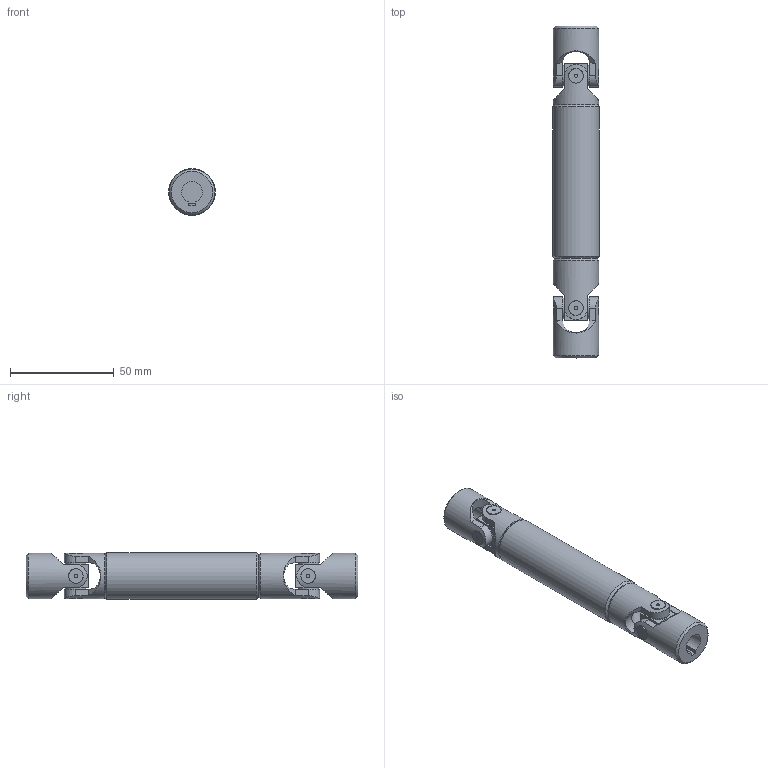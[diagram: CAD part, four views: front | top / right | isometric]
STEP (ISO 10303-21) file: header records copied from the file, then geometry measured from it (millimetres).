
FILE_DESCRIPTION(/* description */ (''),/* implementation_level */ '2;1');
FILE_NAME(/* name */ '\\SRV2016\Societa\Stefano\Disegni 3D\00Catalogo 3D\03Trasmissioni standard GA\!03GA15\!03GA15_SG0A1015.stp',/* time_stamp */ '2022-02-15T10:39:29+01:00',/* author */ ('acquisti'),/* organization */ (''),/* preprocessor_version */ 'ST-DEVELOPER v15.6',/* originating_system */ 'Autodesk Inventor 2015',/* authorisation */ '');
FILE_SCHEMA (('AUTOMOTIVE_DESIGN { 1 0 10303 214 3 1 1 }'));
Length unit declared in the file: millimetre
Products named in the file (5): !03GA15 LCI; !03GA15 LAI; 03G SFE; 03G MOC; !03GA15_SG0A1015
Assembly tree (6 placements, depth 2):
  !03GA15_SG0A1015
    !03GA15 LCI
    !03GA15 LAI
    03G SFE  x2
    03G MOC  x2
Bounding box: 22.5 x 160 x 22.5 mm (x, y, z)
Volume: 46648.7 mm3; surface area: 24459.1 mm2
Topology: 6 solids, 6 shells, 212 faces, 517 edges, 341 vertices
Faces by surface type: plane 106, cylinder 77, cone 25, torus 4
Full cylindrical faces by diameter (mm): 1.5 x8, 10 x9, 11.5 x2, 18 x1, 22 x4, 22.5 x1
Entity records: 5393 total; most frequent: CARTESIAN_POINT 1571, DIRECTION 775, ORIENTED_EDGE 748, EDGE_CURVE 374, AXIS2_PLACEMENT_3D 311, VERTEX_POINT 262, EDGE_LOOP 212, FACE_OUTER_BOUND 164
